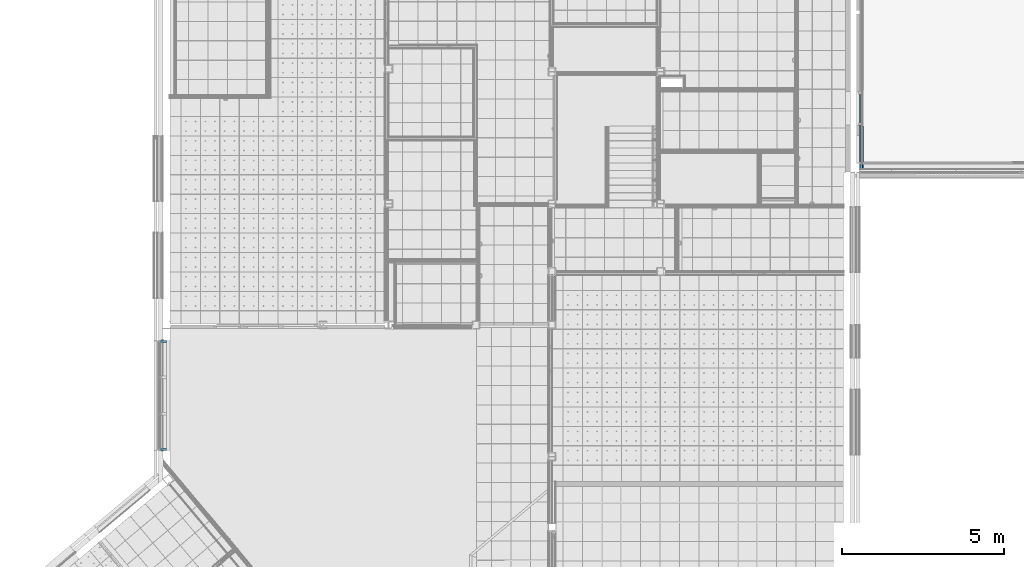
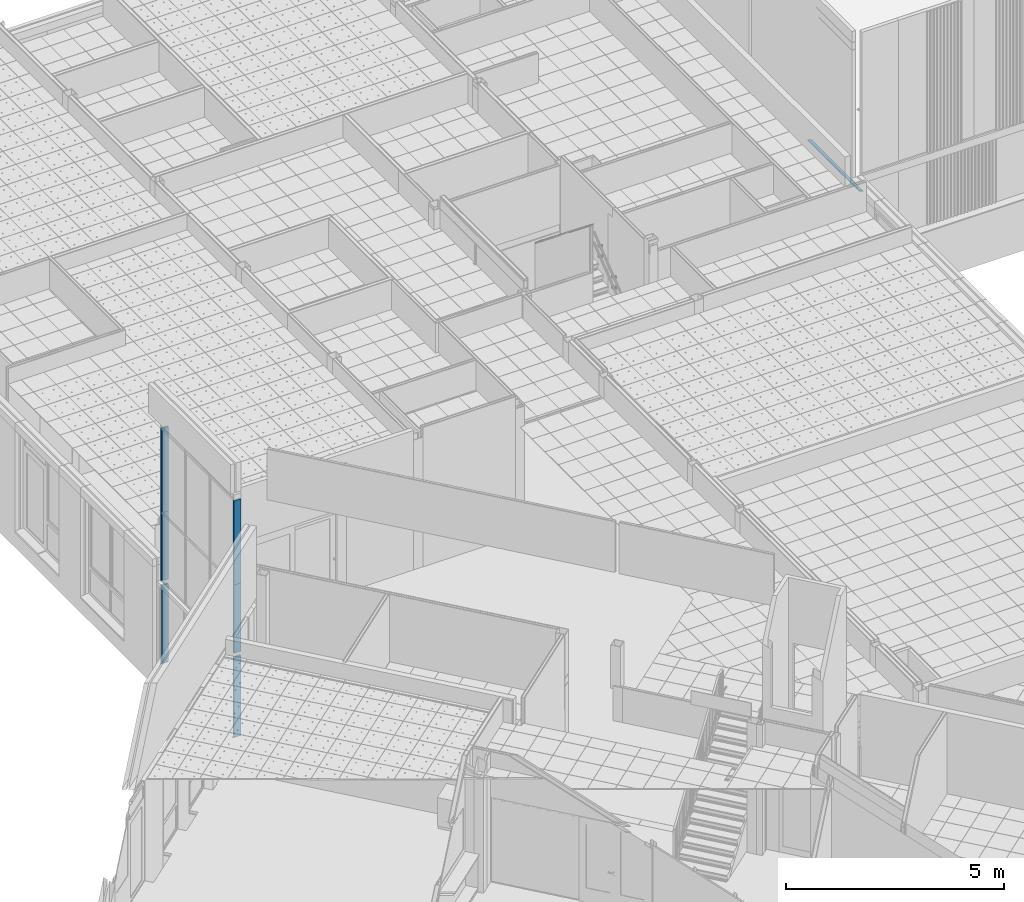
# One storey, part 37 of 338: 6 members, 1 beam, 1 element without a shape of its own.
"""IFC2X3 building model written with IfcOpenShell, lengths in millimetres."""

from ifc_helpers import new_model, entity, si_unit, converted_unit, derived_unit, money_unit, direction, frame, origin_with_axes, place, context, subcontext, project, spatial, faceted_brep, material, type_object, element, aggregate, save


model = new_model("IFC2X3")

# Units and contexts
model_context = context("Model", 3, precision=0.01, world=origin_with_axes(), true_north=direction((0.0, 1.0)))
plan_context = context("Plan", 3, precision=0.01, world=origin_with_axes(), true_north=direction((0.0, 1.0)))
body_context = subcontext(model_context, "Body", "Model", "MODEL_VIEW")
ifc_project = project(units=[si_unit("LENGTHUNIT", "METRE", prefix="MILLI"), si_unit("AREAUNIT", "SQUARE_METRE"), si_unit("VOLUMEUNIT", "CUBIC_METRE"), converted_unit("PLANEANGLEUNIT", "DEGREE", entity("IfcPlaneAngleMeasure", 0.0174532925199), si_unit("PLANEANGLEUNIT", "RADIAN"), dimensions=[0, 0, 0, 0, 0, 0, 0]), money_unit("EUR"), converted_unit("TIMEUNIT", "Year", entity("IfcTimeMeasure", 31556926.0), si_unit("TIMEUNIT", "SECOND"), dimensions=[0, 0, 1, 0, 0, 0, 0]), si_unit("MASSUNIT", "GRAM", prefix="KILO"), si_unit("THERMODYNAMICTEMPERATUREUNIT", "DEGREE_CELSIUS"), si_unit("LUMINOUSINTENSITYUNIT", "LUMEN"), si_unit("ENERGYUNIT", "JOULE", prefix="MEGA"), derived_unit("THERMALCONDUCTANCEUNIT", [(si_unit("POWERUNIT", "WATT"), 1), (si_unit("LENGTHUNIT", "METRE"), -1), (si_unit("THERMODYNAMICTEMPERATUREUNIT", "KELVIN"), -1)]), derived_unit("SPECIFICHEATCAPACITYUNIT", [(si_unit("ENERGYUNIT", "JOULE"), 1), (si_unit("MASSUNIT", "GRAM", prefix="KILO"), -1), (si_unit("THERMODYNAMICTEMPERATUREUNIT", "KELVIN"), -1)]), derived_unit("MASSDENSITYUNIT", [(si_unit("MASSUNIT", "GRAM", prefix="KILO"), 1), (si_unit("VOLUMEUNIT", "CUBIC_METRE"), -1)])], contexts=[model_context, plan_context])

# Site, building, storey
site_placement = place(None, origin_with_axes())
site = spatial("IfcSite", under=ifc_project, at=site_placement, Name="Fortuinstraat Woensdrecht", CompositionType="ELEMENT")
building_placement = place(site_placement, origin_with_axes())
building = spatial("IfcBuilding", under=site, at=building_placement, Name="IKC Fortuna", CompositionType="ELEMENT")
storey_placement = place(building_placement, origin_with_axes())
storey = spatial("IfcBuildingStorey", under=building, at=storey_placement, Name="00 begane grond", CompositionType="ELEMENT", Elevation=0.0)

# Curtain wall, members
curtain_wall_type = type_object("IfcCurtainWallType", Name="Curtain Wall Type", PredefinedType="NOTDEFINED")
curtain_wall_placement = place(storey_placement, frame((13569.9121752, 15129.2768159, -0.000250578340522), z_axis=(0.0, 0.0, 1.0), x_axis=(1.0, 0.0, 0.0)))
curtain_wall = element("IfcCurtainWall", 1, at=curtain_wall_placement, inside=storey, type_object=curtain_wall_type, Name="21_Vliesgevel_Vliesgevel")
ifc_material_1 = material(Name="ALG - ALGEMEEN")
member_type = type_object("IfcMemberType", Name="Boundary Frame 50 x 180", PredefinedType="MULLION")
member_1_placement = place(curtain_wall_placement, frame((0.0, 565.0, 0.0), z_axis=(0.0, 0.0, 1.0), x_axis=(0.0, 1.0, 0.0)))
member_1 = element("IfcMember", 2, at=member_1_placement, type_object=member_type, material=ifc_material_1, Name="_Vliesgevel - kader_Kader-x", ObjectType="MULLION", context=body_context, shape_type="Brep", body=[
    faceted_brep([(-30.0, -22.0, 2236.5), (-50.0, -22.0, 2236.5), (-50.0, -133.5, 2236.5), (0.0, -133.5, 2236.5), (0.0, 46.5, 2236.5), (-50.0, 46.5, 2236.5), (-50.0, 22.0, 2236.5), (-30.0, 22.0, 2236.5), (-30.0, -22.0, 30.0), (-50.0, -22.0, 50.0), (-50.0, -133.5, 50.0), (0.0, -133.5, 0.0), (0.0, 46.5, 0.0), (-50.0, 46.5, 50.0), (-50.0, 22.0, 50.0), (-30.0, 22.0, 30.0)], [[[0, 1, 2, 3, 4, 5, 6, 7]], [[0, 8, 9, 1]], [[9, 10, 2, 1]], [[2, 10, 11, 3]], [[3, 11, 12, 4]], [[4, 12, 13, 5]], [[6, 5, 13, 14]], [[14, 15, 7, 6]], [[7, 15, 8, 0]], [[8, 15, 14, 13, 12, 11, 10, 9]]]),
])
member_2_placement = place(curtain_wall_placement, frame((0.0, 565.0, 2360.5), z_axis=(0.0, 0.0, 1.0), x_axis=(0.0, 1.0, 0.0)))
member_2 = element("IfcMember", 3, at=member_2_placement, type_object=member_type, material=ifc_material_1, Name="_Vliesgevel - kader_Kader-x", ObjectType="MULLION", context=body_context, shape_type="Brep", body=[
    faceted_brep([(-30.0, -22.0, 1914.5), (-50.0, -22.0, 1914.5), (-50.0, -133.5, 1914.5), (0.0, -133.5, 1914.5), (0.0, 46.5, 1914.5), (-50.0, 46.5, 1914.5), (-50.0, 22.0, 1914.5), (-30.0, 22.0, 1914.5), (-30.0, -22.0, 0.0), (-50.0, -22.0, 0.0), (-50.0, -133.5, 0.0), (0.0, -133.5, 0.0), (0.0, 46.5, 0.0), (-50.0, 46.5, 0.0), (-50.0, 22.0, 0.0), (-30.0, 22.0, 0.0)], [[[0, 1, 2, 3, 4, 5, 6, 7]], [[0, 8, 9, 1]], [[9, 10, 2, 1]], [[10, 11, 3, 2]], [[11, 12, 4, 3]], [[12, 13, 5, 4]], [[6, 5, 13, 14]], [[14, 15, 7, 6]], [[7, 15, 8, 0]], [[8, 15, 14, 13, 12, 11, 10, 9]]]),
])
member_3_placement = place(curtain_wall_placement, frame((0.0, -2818.86261618, 4275.0), z_axis=(0.0, -2.89507250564e-09, 1.0), x_axis=(0.0, 1.0, 2.89507250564e-09)))
member_3 = element("IfcMember", 4, at=member_3_placement, type_object=member_type, material=ifc_material_1, Name="_Vliesgevel - kader_Kader-x", ObjectType="MULLION", context=body_context, shape_type="Brep", body=[
    faceted_brep([(30.0000068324, -22.0, 2359.99999999), (30.0000068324, 22.0, 2359.99999999), (50.0000068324, 22.0, 2359.99999993), (50.0000068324, 46.5, 2359.99999993), (6.83237111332e-06, 46.5, 2360.00000007), (6.83237111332e-06, -133.5, 2360.00000007), (50.0000068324, -133.5, 2359.99999993), (50.0000068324, -22.0, 2359.99999993), (30.0, -22.0, -8.57492743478e-07), (30.0, 22.0, -8.57492743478e-07), (50.0, 22.0, -9.15393982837e-07), (50.0, 46.5, -9.15393982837e-07), (0.0, 46.5, -7.70640440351e-07), (0.0, -133.5, -7.70640440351e-07), (50.0, -133.5, -9.15393982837e-07), (50.0, -22.0, -9.15393982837e-07)], [[[0, 1, 2, 3, 4, 5, 6, 7]], [[1, 0, 8, 9]], [[10, 2, 1, 9]], [[2, 10, 11, 3]], [[12, 4, 3, 11]], [[13, 5, 4, 12]], [[14, 6, 5, 13]], [[15, 7, 6, 14]], [[0, 7, 15, 8]], [[8, 15, 14, 13, 12, 11, 10, 9]]]),
])
member_4_placement = place(curtain_wall_placement, frame((0.0, -2818.86266965, 2360.5), z_axis=(0.0, 2.79305572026e-08, 1.0), x_axis=(0.0, 1.0, -2.79305572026e-08)))
member_4 = element("IfcMember", 5, at=member_4_placement, type_object=member_type, material=ifc_material_1, Name="_Vliesgevel - kader_Kader-x", ObjectType="MULLION", context=body_context, shape_type="Brep", body=[
    faceted_brep([(29.9999465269, -22.0, 1914.50000161), (29.9999465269, 22.0, 1914.50000161), (49.9999465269, 22.0, 1914.50000217), (49.9999465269, 46.5, 1914.50000217), (-5.34730517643e-05, 46.5, 1914.50000077), (-5.34730517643e-05, -133.5, 1914.50000077), (49.9999465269, -133.5, 1914.50000217), (49.9999465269, -22.0, 1914.50000217), (30.0, -22.0, -5.8993858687e-06), (30.0, 22.0, -5.8993858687e-06), (50.0, 22.0, -5.34077448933e-06), (50.0, 46.5, -5.34077448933e-06), (0.0, 46.5, -6.73730227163e-06), (0.0, -133.5, -6.73730227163e-06), (50.0, -133.5, -5.34077448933e-06), (50.0, -22.0, -5.34077448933e-06)], [[[0, 1, 2, 3, 4, 5, 6, 7]], [[1, 0, 8, 9]], [[10, 2, 1, 9]], [[2, 10, 11, 3]], [[12, 4, 3, 11]], [[13, 5, 4, 12]], [[14, 6, 5, 13]], [[15, 7, 6, 14]], [[0, 7, 15, 8]], [[8, 15, 14, 13, 12, 11, 10, 9]]]),
])
member_5_placement = place(curtain_wall_placement, frame((0.0, -2818.86270653, 0.0), z_axis=(0.0, 0.0, 1.0), x_axis=(0.0, 1.0, 0.0)))
member_5 = element("IfcMember", 6, at=member_5_placement, type_object=member_type, material=ifc_material_1, Name="_Vliesgevel - kader_Kader-x", ObjectType="MULLION", context=body_context, shape_type="Brep", body=[
    faceted_brep([(30.0, -22.0, 2236.50000744), (30.0, 22.0, 2236.50000744), (50.0, 22.0, 2236.50000744), (50.0, 46.5, 2236.50000744), (0.0, 46.5, 2236.50000744), (0.0, -133.5, 2236.50000744), (50.0, -133.5, 2236.50000744), (50.0, -22.0, 2236.50000744), (30.0, -22.0, 30.0), (30.0, 22.0, 30.0), (50.0, 22.0, 50.0), (50.0, 46.5, 50.0), (0.0, 46.5, 0.0), (0.0, -133.5, 0.0), (50.0, -133.5, 50.0), (50.0, -22.0, 50.0)], [[[0, 1, 2, 3, 4, 5, 6, 7]], [[1, 0, 8, 9]], [[10, 2, 1, 9]], [[2, 10, 11, 3]], [[4, 3, 11, 12]], [[5, 4, 12, 13]], [[6, 5, 13, 14]], [[15, 7, 6, 14]], [[0, 7, 15, 8]], [[8, 15, 14, 13, 12, 11, 10, 9]]]),
])
member_6_placement = place(curtain_wall_placement, frame((0.0, 565.0, 4275.0), z_axis=(0.0, 0.0, 1.0), x_axis=(0.0, 1.0, 0.0)))
member_6 = element("IfcMember", 7, at=member_6_placement, type_object=member_type, material=ifc_material_1, Name="_Vliesgevel - kader_Kader-x", ObjectType="MULLION", context=body_context, shape_type="Brep", body=[
    faceted_brep([(-30.0, -22.0, 2360.0), (-50.0, -22.0, 2360.0), (-50.0, -133.5, 2360.0), (0.0, -133.5, 2360.0), (0.0, 46.5, 2360.0), (-50.0, 46.5, 2360.0), (-50.0, 22.0, 2360.0), (-30.0, 22.0, 2360.0), (-30.0, -22.0, 0.0), (-50.0, -22.0, 0.0), (-50.0, -133.5, 0.0), (0.0, -133.5, 0.0), (0.0, 46.5, 0.0), (-50.0, 46.5, 0.0), (-50.0, 22.0, 0.0), (-30.0, 22.0, 0.0)], [[[0, 1, 2, 3, 4, 5, 6, 7]], [[0, 8, 9, 1]], [[9, 10, 2, 1]], [[10, 11, 3, 2]], [[11, 12, 4, 3]], [[12, 13, 5, 4]], [[6, 5, 13, 14]], [[14, 15, 7, 6]], [[7, 15, 8, 0]], [[8, 15, 14, 13, 12, 11, 10, 9]]]),
])
aggregate(curtain_wall, [member_1, member_2, member_3, member_4, member_5, member_6])

# Beam
ifc_material_2 = material(Name="Hout - Multiplex")
beam_type = type_object("IfcBeamType", Name="Hout - Multiplex 120 x 12", PredefinedType="BEAM")
beam_placement = place(storey_placement, frame((35113.4270841, 20996.2966282, 2478.0975514), z_axis=(0.0, 0.0, 1.0), x_axis=(1.0, 0.0, 0.0)))
element("IfcBeam", 8, at=beam_placement, inside=storey, type_object=beam_type, material=ifc_material_2, Name="28_Balk_UNP204", ObjectType="BEAM", context=body_context, shape_type="Brep", body=[
    faceted_brep([(65.9999730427, 171.0, -11.2518923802), (65.9999730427, 161.5, -11.2518923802), (4.10424171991, 161.5, 11.2763114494), (4.10424171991, 9.49999999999, 11.2763114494), (65.9999730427, 9.49999999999, -11.2518923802), (65.9999730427, 0.0, -11.2518923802), (84.8082666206, 0.0, -18.0975513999), (84.8082666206, 140.0, -18.0975513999), (116.867356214, 140.0, -29.7661057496), (116.867356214, 2388.21692012, -29.7661057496), (4.10424171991, 2388.21692012, 11.2763114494), (4.10424171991, 171.0, 11.2763114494), (65.9999730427, 161.5, -24.0220256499), (65.9999730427, 171.0, -24.0220256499), (0.0, 161.5, 0.0), (0.0, 9.49999999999, 0.0), (65.9999730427, 9.49999999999, -18.0975513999), (65.9999730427, 9.49999999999, -24.0220256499), (65.9999730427, 0.0, -18.0975513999), (65.9999730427, 140.0, -18.0975513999), (65.9999730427, 140.0, -24.0220256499), (112.763114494, 140.0, -41.0424171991), (112.763114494, 2388.21692012, -41.0424171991), (0.0, 2388.21692012, 0.0), (0.0, 171.0, 0.0)], [[[0, 1, 2, 3, 4, 5, 6, 7, 8, 9, 10, 11]], [[12, 1, 0, 13]], [[14, 2, 1, 12]], [[3, 2, 14, 15]], [[16, 4, 3, 15, 17]], [[18, 5, 4, 16]], [[6, 5, 18]], [[6, 18, 16, 19, 7]], [[19, 20, 21, 8, 7]], [[22, 9, 8, 21]], [[10, 9, 22, 23]], [[23, 24, 11, 10]], [[13, 0, 11, 24]], [[12, 13, 24, 23, 22, 21, 20, 17, 15, 14]], [[19, 16, 17, 20]]]),
    faceted_brep([(112.763114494, 10.8455377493, -41.0424171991), (112.763114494, 129.154462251, -41.0424171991), (115.217502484, 128.614272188, -34.2990416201), (116.867356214, 126.409773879, -29.7661057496), (116.867356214, 13.5902261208, -29.7661057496), (115.217502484, 11.3857278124, -34.2990416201), (76.2413696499, 125.429083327, -27.7495891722), (94.2358423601, 128.614272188, -34.2990416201), (94.2358423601, 11.3857278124, -34.2990416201), (76.2413696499, 14.5709166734, -27.7495891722), (68.9549557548, 21.3537959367, -25.0975513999), (68.9549557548, 118.646204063, -25.0975513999), (111.327022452, 125.429083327, -27.7495891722), (104.040608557, 21.3537959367, -25.0975513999), (111.327022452, 14.5709166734, -27.7495891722), (104.040608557, 118.646204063, -25.0975513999)], [[[0, 1, 2, 3, 4, 5]], [[6, 7, 1, 0, 8, 9, 10, 11]], [[7, 2, 1]], [[6, 12, 3, 2, 7]], [[13, 14, 4, 3, 12, 15]], [[8, 5, 4, 14, 9]], [[8, 0, 5]], [[9, 14, 13, 10]], [[10, 13, 15, 11]], [[11, 15, 12, 6]]]),
])

save(model, "model.ifc")
